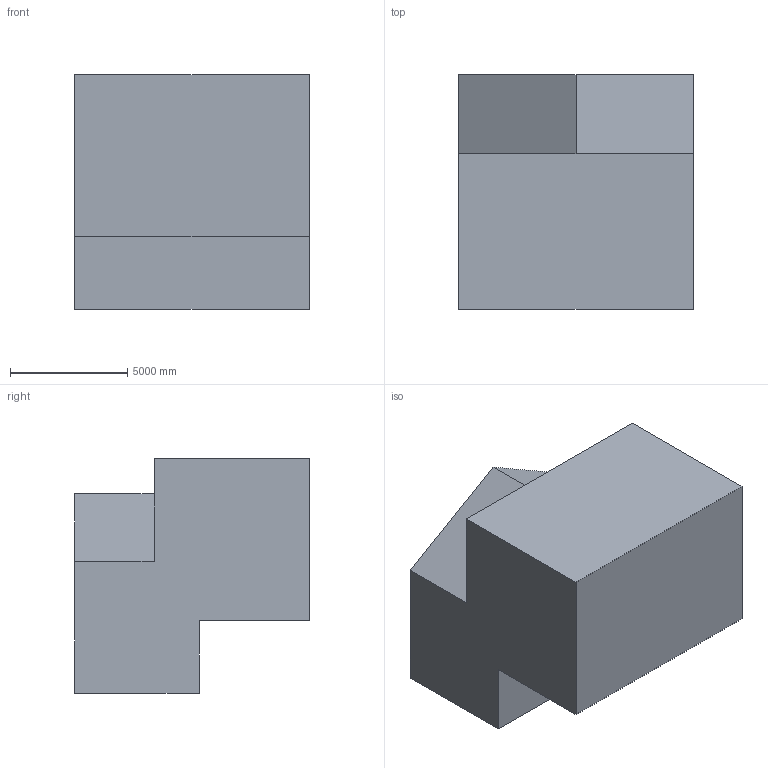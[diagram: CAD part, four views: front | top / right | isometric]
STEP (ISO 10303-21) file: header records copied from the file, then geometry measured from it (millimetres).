
FILE_DESCRIPTION (( 'STEP AP203' ), '1' );
FILE_NAME ('1034.STEP', '2022-08-18T12:30:08', ( 'user' ), ( '' ), 'SwSTEP 2.0', 'SolidWorks 2021', '' );
FILE_SCHEMA (( 'CONFIG_CONTROL_DESIGN' ));
Length unit declared in the file: centimetre
Products named in the file (1): 1034
Bounding box: 10000 x 10000 x 10000 mm (x, y, z)
Volume: 755161104455.2 mm3; surface area: 546498222.2 mm2
Topology: 1 solids, 1 shells, 11 faces, 27 edges, 18 vertices
Faces by surface type: plane 11
Entity records: 398 total; most frequent: CARTESIAN_POINT 57, ORIENTED_EDGE 54, DIRECTION 51, VECTOR 27, LINE 27, EDGE_CURVE 27, VERTEX_POINT 18, AXIS2_PLACEMENT_3D 12
